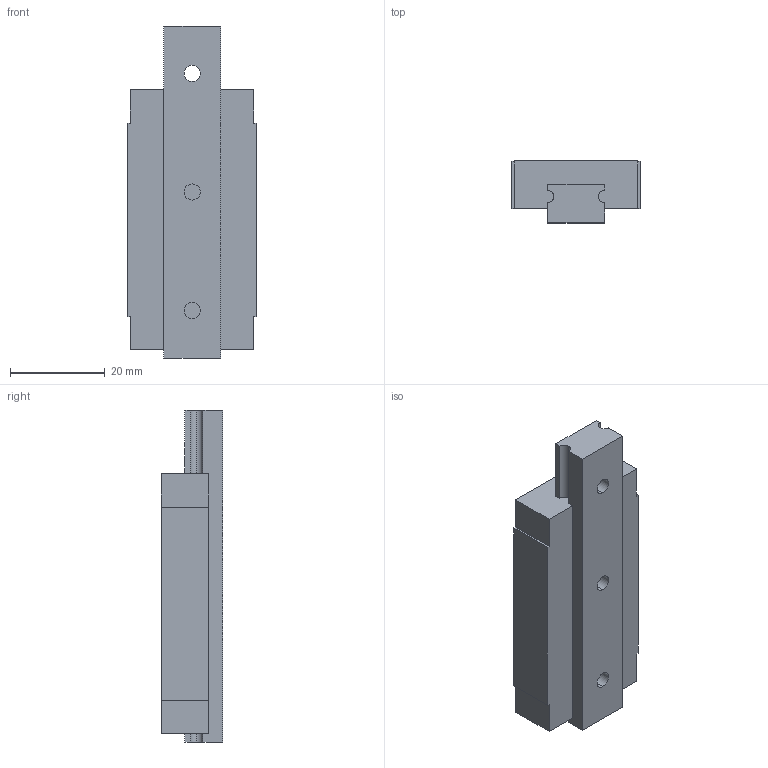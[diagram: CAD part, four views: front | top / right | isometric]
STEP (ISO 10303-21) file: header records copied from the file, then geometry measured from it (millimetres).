
FILE_DESCRIPTION (( 'STEP AP203' ), '1' );
FILE_NAME ('MCM 12LL.STEP', '2020-08-14T05:19:11', ( '' ), ( '' ), 'SwSTEP 2.0', 'SolidWorks 2014', '' );
FILE_SCHEMA (( 'CONFIG_CONTROL_DESIGN' ));
Length unit declared in the file: inch
Products named in the file (3): mcm12 LL; MCM TABLE 12 - 70; MCM 12LL
Assembly tree (2 placements, depth 2):
  MCM 12LL
    MCM TABLE 12 - 70
    mcm12 LL
Bounding box: 27 x 12.98 x 70 mm (x, y, z)
Volume: 17321.1 mm3; surface area: 8903.2 mm2
Topology: 2 solids, 2 shells, 73 faces, 186 edges, 114 vertices
Faces by surface type: plane 31, cylinder 30, cone 12
Entity records: 2443 total; most frequent: DIRECTION 390, CARTESIAN_POINT 366, ORIENTED_EDGE 348, EDGE_CURVE 174, AXIS2_PLACEMENT_3D 138, VECTOR 114, VERTEX_POINT 114, LINE 114
